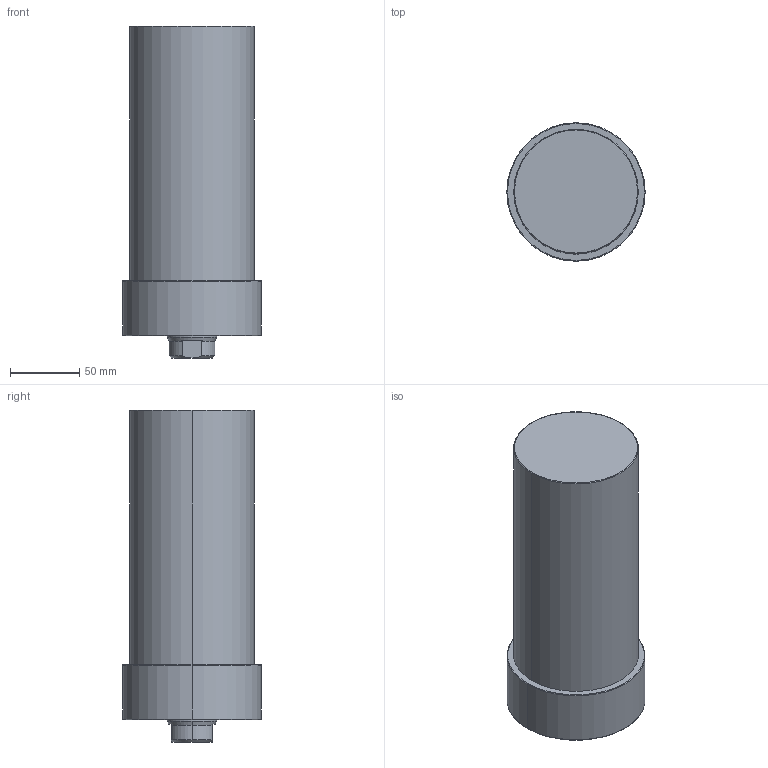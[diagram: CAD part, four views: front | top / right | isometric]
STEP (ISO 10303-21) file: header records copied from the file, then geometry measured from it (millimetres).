
FILE_DESCRIPTION (( 'STEP AP203' ), '1' );
FILE_NAME ('CLLU-090GA-130.STEP', '2020-01-13T05:36:07', ( '' ), ( '' ), 'SwSTEP 2.0', 'SolidWorks 2015', '' );
FILE_SCHEMA (( 'CONFIG_CONTROL_DESIGN' ));
Length unit declared in the file: millimetre
Products named in the file (1): CLLU-090GA-130
Bounding box: 100 x 100 x 240 mm (x, y, z)
Volume: 1478454.6 mm3; surface area: 87501.8 mm2
Topology: 1 solids, 1 shells, 64 faces, 143 edges, 80 vertices
Faces by surface type: cone 25, cylinder 23, plane 10, torus 6
Entity records: 1809 total; most frequent: DIRECTION 330, CARTESIAN_POINT 322, ORIENTED_EDGE 266, AXIS2_PLACEMENT_3D 140, EDGE_CURVE 133, VERTEX_POINT 80, CIRCLE 75, EDGE_LOOP 73
